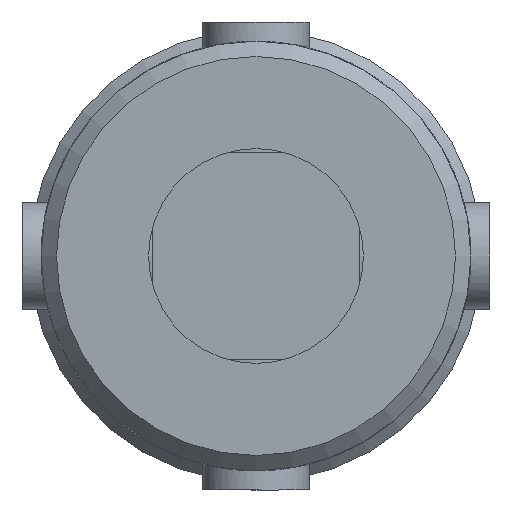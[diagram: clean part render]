
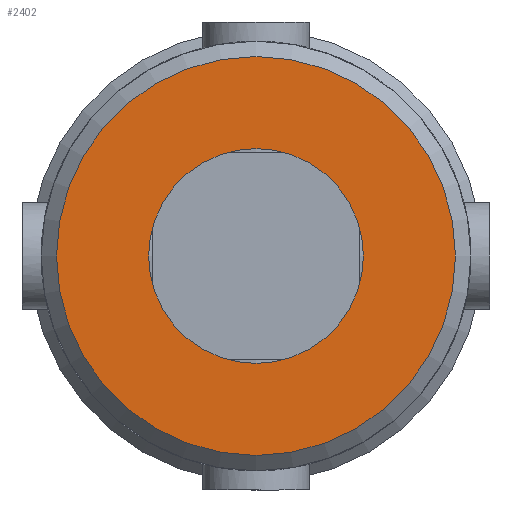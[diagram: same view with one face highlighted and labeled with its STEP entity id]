
A CAD part, left-side view. The second image highlights one B-rep face of the part: STEP entity #2402.
In plain terms, the highlighted planar face has unit normal (-1, 0, 0) as drawn and (0, -1, 0) by its records, which use the part's own axes.
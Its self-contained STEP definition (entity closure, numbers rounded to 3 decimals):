
#160=FACE_BOUND('',#546,.T.);
#243=PLANE('',#2645);
#371=FACE_OUTER_BOUND('',#545,.T.);
#545=EDGE_LOOP('',(#2112));
#546=EDGE_LOOP('',(#2113));
#973=CIRCLE('',#2640,7.);
#975=CIRCLE('',#2643,13.);
#1183=VERTEX_POINT('',#4430);
#1185=VERTEX_POINT('',#4435);
#1500=EDGE_CURVE('',#1183,#1183,#973,.T.);
#1502=EDGE_CURVE('',#1185,#1185,#975,.T.);
#2112=ORIENTED_EDGE('',*,*,#1502,.F.);
#2113=ORIENTED_EDGE('',*,*,#1500,.T.);
#2402=ADVANCED_FACE('',(#371,#160),#243,.F.);
#2640=AXIS2_PLACEMENT_3D('',#4431,#3228,#3229);
#2643=AXIS2_PLACEMENT_3D('',#4436,#3234,#3235);
#2645=AXIS2_PLACEMENT_3D('',#4612,#3242,#3243);
#3228=DIRECTION('center_axis',(0.,1.,0.));
#3229=DIRECTION('ref_axis',(-1.,0.,0.));
#3234=DIRECTION('center_axis',(0.,1.,0.));
#3235=DIRECTION('ref_axis',(1.,0.,0.));
#3242=DIRECTION('center_axis',(0.,1.,0.));
#3243=DIRECTION('ref_axis',(0.,0.,1.));
#4430=CARTESIAN_POINT('',(7.,-36.5,0.));
#4431=CARTESIAN_POINT('Origin',(0.,-36.5,0.));
#4435=CARTESIAN_POINT('',(-13.,-36.5,0.));
#4436=CARTESIAN_POINT('Origin',(0.,-36.5,0.));
#4612=CARTESIAN_POINT('Origin',(0.,-36.5,0.));
